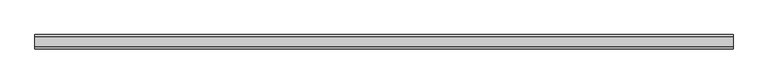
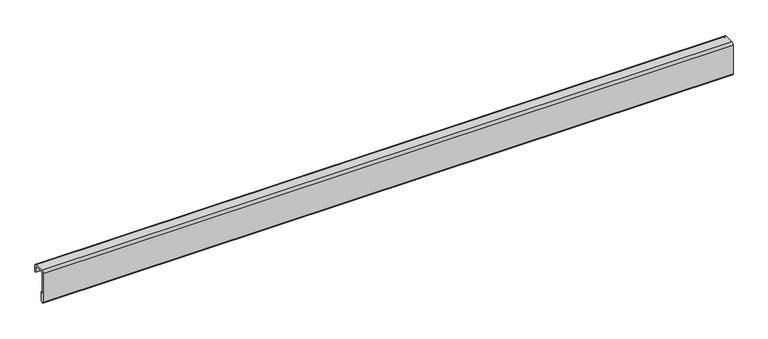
"""IFC4 building model written with IfcOpenShell, lengths in millimetres: furniture geometry, Accessories-Teknion-FHR-AI_Healthcare-Equipment_Rail_&_Adapter-R2021 : Equipment & Adapter."""

from ifc_helpers import new_model, si_unit, point, frame, frame_2d, origin, place, context, project, spatial, polyline, circle_curve, trimmed, segment, composite_curve, outline, extrude, source, transform, mapped, element, save


def furniture_be57a3d5(model_context):
    return source(origin(), model_context, "Body", "SweptSolid", [
        extrude(outline(composite_curve([segment(polyline([(2.152082, -37.2494993), (2.152082, 15.7095001)]), True, "CONTINUOUS"), segment(trimmed(circle_curve(frame_2d((6.3430814, 15.7095001)), 4.1909994), [point((2.152082, 15.7095001))], [point((6.3430814, 19.9004995))], False, "CARTESIAN"), True, "CONTINUOUS"), segment(polyline([(6.3430814, 19.9004995), (23.3612474, 19.9004995)]), True, "CONTINUOUS"), segment(trimmed(circle_curve(frame_2d((23.3612474, 15.709499)), 4.1910005), [point((23.3612474, 19.9004995))], [point((27.5522479, 15.709499))], False, "CARTESIAN"), True, "CONTINUOUS"), segment(polyline([(27.5522479, 15.709499), (27.5522479, 4.8192492), (24.8852479, 4.8192492), (24.8852479, 15.709499)]), True, "CONTINUOUS"), segment(trimmed(circle_curve(frame_2d((23.3612482, 15.709499)), 1.5239997), [point((24.8852479, 15.709499))], [point((23.3612482, 17.2334987))], True, "CARTESIAN"), True, "CONTINUOUS"), segment(polyline([(23.3612482, 17.2334987), (6.3432486, 17.2334987)]), True, "CONTINUOUS"), segment(trimmed(circle_curve(frame_2d((6.3432486, 15.7094966)), 1.5240021), [point((6.3432486, 17.2334987))], [point((4.8192465, 15.7094966))], True, "CARTESIAN"), True, "CONTINUOUS"), segment(polyline([(4.8192465, 15.7094966), (4.8192465, -20.9165006), (7.5862482, -20.9165006), (7.5862482, -37.2494993)]), True, "CONTINUOUS"), segment(trimmed(circle_curve(frame_2d((4.8691651, -37.2494993)), 2.7170831), [point((7.5862482, -37.2494993))], [point((2.152082, -37.2494993))], False, "CARTESIAN"), True, "CONTINUOUS")], self_intersect=False)), frame((-733.3195572, 0.0, 0.0), z_axis=(1.0, 0.0, 0.0), x_axis=(0.0, 1.0, 0.0)), (0.0, 0.0, 1.0), 1219.2),
    ])


if __name__ == "__main__":
    model = new_model("IFC4")
    model_context = context("Model", 3, world=origin())
    ifc_project = project(units=[si_unit("LENGTHUNIT", "METRE", prefix="MILLI")], contexts=[model_context])
    site = spatial("IfcSite", under=ifc_project)
    building = spatial("IfcBuilding", under=site)
    placement = place(None, origin())
    furniture_shape = furniture_be57a3d5(model_context)
    element("IfcFurniture", 1, ObjectType="Accessories-Teknion-FHR-AI_Healthcare-Equipment_Rail_&_Adapter-R2021 : Equipment & Adapter", at=placement, inside=building, context=model_context, shape_type="MappedRepresentation", body=[
        mapped(furniture_shape, transform((0.0, 0.0, 0.0), x_axis=(1.0, 0.0, 0.0), y_axis=(0.0, 1.0, 0.0), z_axis=(0.0, 0.0, 1.0))),
    ])
    save(model, "model.ifc")
